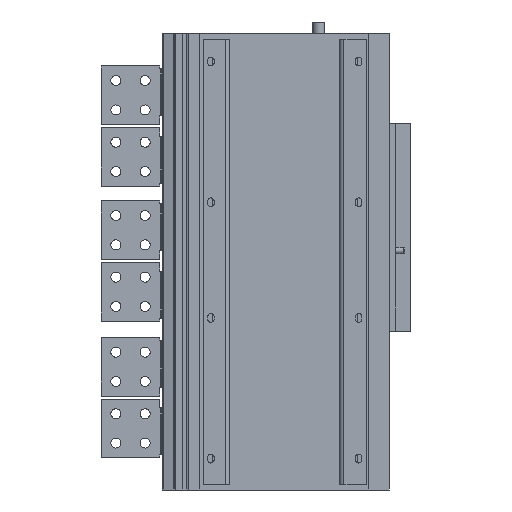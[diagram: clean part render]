
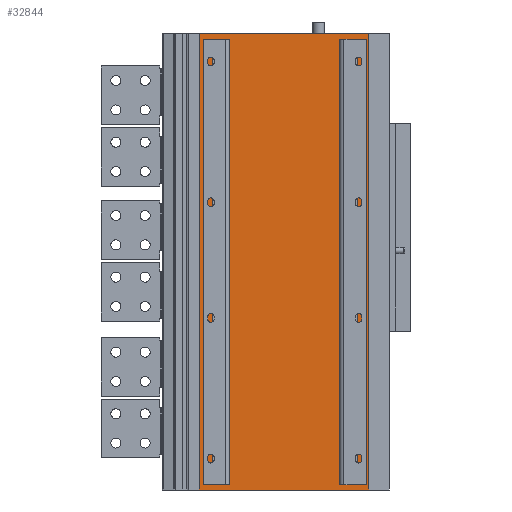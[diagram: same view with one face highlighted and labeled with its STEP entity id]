
A CAD part, front view. The second image highlights one B-rep face of the part: STEP entity #32844.
In plain terms, the highlighted planar face has unit normal (0, -1, 0).
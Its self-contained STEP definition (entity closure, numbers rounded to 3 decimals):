
#473 = EDGE_CURVE ( 'NONE', #24136, #32761, #35177, .T. ) ;
#561 = ORIENTED_EDGE ( 'NONE', *, *, #15667, .F. ) ;
#1376 = VERTEX_POINT ( 'NONE', #33275 ) ;
#3197 = CARTESIAN_POINT ( 'NONE',  ( 5152.975, 249.653, 760. ) ) ;
#3764 = VECTOR ( 'NONE', #11329, 1000. ) ;
#4236 = LINE ( 'NONE', #27053, #11854 ) ;
#4342 = CARTESIAN_POINT ( 'NONE',  ( 5133.475, 249.653, 0. ) ) ;
#4960 = CARTESIAN_POINT ( 'NONE',  ( 4908.475, 249.653, 0. ) ) ;
#5441 = VERTEX_POINT ( 'NONE', #4960 ) ;
#5640 = ORIENTED_EDGE ( 'NONE', *, *, #42657, .T. ) ;
#5912 = CARTESIAN_POINT ( 'NONE',  ( 4885.475, 249.653, 760. ) ) ;
#6238 = CARTESIAN_POINT ( 'NONE',  ( 4885.475, 249.653, 760. ) ) ;
#6730 = VERTEX_POINT ( 'NONE', #32833 ) ;
#7273 = ORIENTED_EDGE ( 'NONE', *, *, #43026, .T. ) ;
#7323 = EDGE_CURVE ( 'NONE', #6730, #10787, #41262, .T. ) ;
#7578 = ORIENTED_EDGE ( 'NONE', *, *, #37132, .F. ) ;
#8348 = EDGE_CURVE ( 'NONE', #21730, #38053, #42743, .T. ) ;
#10096 = ORIENTED_EDGE ( 'NONE', *, *, #18342, .F. ) ;
#10787 = VERTEX_POINT ( 'NONE', #33672 ) ;
#11066 = CARTESIAN_POINT ( 'NONE',  ( 5133.475, 249.653, 0. ) ) ;
#11329 = DIRECTION ( 'NONE',  ( 0., 0., -1. ) ) ;
#11430 = VERTEX_POINT ( 'NONE', #5912 ) ;
#11797 = DIRECTION ( 'NONE',  ( 1., 0., 0. ) ) ;
#11854 = VECTOR ( 'NONE', #23423, 1000. ) ;
#12084 = CARTESIAN_POINT ( 'NONE',  ( 5133.475, 249.653, 760. ) ) ;
#12551 = FACE_BOUND ( 'NONE', #40429, .T. ) ;
#12653 = DIRECTION ( 'NONE',  ( 0., 0., 1. ) ) ;
#12755 = VERTEX_POINT ( 'NONE', #29372 ) ;
#13028 = DIRECTION ( 'NONE',  ( 1., 0., 0. ) ) ;
#13861 = DIRECTION ( 'NONE',  ( 0., 0., -1. ) ) ;
#15468 = VECTOR ( 'NONE', #26645, 1000. ) ;
#15667 = EDGE_CURVE ( 'NONE', #21730, #24136, #43899, .T. ) ;
#15841 = CARTESIAN_POINT ( 'NONE',  ( 4863.475, 249.653, 769. ) ) ;
#16110 = DIRECTION ( 'NONE',  ( 1., 0., 0. ) ) ;
#16662 = LINE ( 'NONE', #33877, #36812 ) ;
#16665 = LINE ( 'NONE', #36961, #43312 ) ;
#17642 = DIRECTION ( 'NONE',  ( 0., 0., -1. ) ) ;
#18342 = EDGE_CURVE ( 'NONE', #10787, #41968, #16662, .T. ) ;
#19088 = VECTOR ( 'NONE', #28809, 1000. ) ;
#19514 = EDGE_CURVE ( 'NONE', #12755, #5441, #39401, .T. ) ;
#19721 = VERTEX_POINT ( 'NONE', #32081 ) ;
#19780 = ORIENTED_EDGE ( 'NONE', *, *, #7323, .F. ) ;
#21730 = VERTEX_POINT ( 'NONE', #15841 ) ;
#22018 = EDGE_LOOP ( 'NONE', ( #42206, #25370, #35423, #561 ) ) ;
#22065 = CARTESIAN_POINT ( 'NONE',  ( 5152.975, 249.653, 769. ) ) ;
#22312 = DIRECTION ( 'NONE',  ( 0., 0., -1. ) ) ;
#22347 = CARTESIAN_POINT ( 'NONE',  ( 4863.475, 249.653, 760. ) ) ;
#22516 = VECTOR ( 'NONE', #22312, 1000. ) ;
#22852 = PLANE ( 'NONE',  #44962 ) ;
#23423 = DIRECTION ( 'NONE',  ( 1., 0., 0. ) ) ;
#24136 = VERTEX_POINT ( 'NONE', #22065 ) ;
#24693 = LINE ( 'NONE', #12084, #15468 ) ;
#25300 = CARTESIAN_POINT ( 'NONE',  ( 5110.475, 249.653, 760. ) ) ;
#25370 = ORIENTED_EDGE ( 'NONE', *, *, #34690, .T. ) ;
#26645 = DIRECTION ( 'NONE',  ( 1., 0., 0. ) ) ;
#27053 = CARTESIAN_POINT ( 'NONE',  ( 4863.475, 249.653, -9. ) ) ;
#27210 = LINE ( 'NONE', #11066, #19088 ) ;
#27251 = EDGE_CURVE ( 'NONE', #11430, #12755, #16665, .T. ) ;
#28218 = LINE ( 'NONE', #6238, #33148 ) ;
#28809 = DIRECTION ( 'NONE',  ( 1., 0., 0. ) ) ;
#29372 = CARTESIAN_POINT ( 'NONE',  ( 4908.475, 249.653, 760. ) ) ;
#29638 = DIRECTION ( 'NONE',  ( 0., 0., -1. ) ) ;
#30645 = LINE ( 'NONE', #43106, #22516 ) ;
#31669 = CARTESIAN_POINT ( 'NONE',  ( 5152.975, 249.653, -9. ) ) ;
#32081 = CARTESIAN_POINT ( 'NONE',  ( 5133.475, 249.653, 760. ) ) ;
#32761 = VERTEX_POINT ( 'NONE', #31669 ) ;
#32833 = CARTESIAN_POINT ( 'NONE',  ( 5110.475, 249.653, 760. ) ) ;
#32844 = ADVANCED_FACE ( 'NONE', ( #12551, #41333, #40789 ), #22852, .F. ) ;
#32906 = ORIENTED_EDGE ( 'NONE', *, *, #27251, .T. ) ;
#33148 = VECTOR ( 'NONE', #33959, 1000. ) ;
#33275 = CARTESIAN_POINT ( 'NONE',  ( 4885.475, 249.653, 0. ) ) ;
#33401 = EDGE_LOOP ( 'NONE', ( #10096, #19780, #5640, #7273 ) ) ;
#33495 = CARTESIAN_POINT ( 'NONE',  ( 0., 249.653, 760. ) ) ;
#33552 = VECTOR ( 'NONE', #29638, 1000. ) ;
#33672 = CARTESIAN_POINT ( 'NONE',  ( 5110.475, 249.653, 0. ) ) ;
#33877 = CARTESIAN_POINT ( 'NONE',  ( 5133.475, 249.653, 0. ) ) ;
#33959 = DIRECTION ( 'NONE',  ( 0., 0., -1. ) ) ;
#34081 = VECTOR ( 'NONE', #13861, 1000. ) ;
#34690 = EDGE_CURVE ( 'NONE', #38053, #32761, #4236, .T. ) ;
#34705 = VECTOR ( 'NONE', #11797, 1000. ) ;
#35177 = LINE ( 'NONE', #3197, #34081 ) ;
#35423 = ORIENTED_EDGE ( 'NONE', *, *, #473, .F. ) ;
#36546 = DIRECTION ( 'NONE',  ( 0., 1., 0. ) ) ;
#36812 = VECTOR ( 'NONE', #13028, 1000. ) ;
#36961 = CARTESIAN_POINT ( 'NONE',  ( 5133.475, 249.653, 760. ) ) ;
#37132 = EDGE_CURVE ( 'NONE', #1376, #5441, #27210, .T. ) ;
#38053 = VERTEX_POINT ( 'NONE', #43907 ) ;
#38925 = CARTESIAN_POINT ( 'NONE',  ( 4908.475, 249.653, 760. ) ) ;
#39067 = EDGE_CURVE ( 'NONE', #11430, #1376, #28218, .T. ) ;
#39401 = LINE ( 'NONE', #38925, #41563 ) ;
#40429 = EDGE_LOOP ( 'NONE', ( #7578, #43068, #32906, #44257 ) ) ;
#40789 = FACE_OUTER_BOUND ( 'NONE', #22018, .T. ) ;
#41262 = LINE ( 'NONE', #25300, #3764 ) ;
#41333 = FACE_BOUND ( 'NONE', #33401, .T. ) ;
#41563 = VECTOR ( 'NONE', #17642, 1000. ) ;
#41968 = VERTEX_POINT ( 'NONE', #4342 ) ;
#42206 = ORIENTED_EDGE ( 'NONE', *, *, #8348, .T. ) ;
#42657 = EDGE_CURVE ( 'NONE', #6730, #19721, #24693, .T. ) ;
#42743 = LINE ( 'NONE', #22347, #33552 ) ;
#43026 = EDGE_CURVE ( 'NONE', #19721, #41968, #30645, .T. ) ;
#43068 = ORIENTED_EDGE ( 'NONE', *, *, #39067, .F. ) ;
#43106 = CARTESIAN_POINT ( 'NONE',  ( 5133.475, 249.653, 760. ) ) ;
#43312 = VECTOR ( 'NONE', #16110, 1000. ) ;
#43681 = CARTESIAN_POINT ( 'NONE',  ( 4863.475, 249.653, 769. ) ) ;
#43899 = LINE ( 'NONE', #43681, #34705 ) ;
#43907 = CARTESIAN_POINT ( 'NONE',  ( 4863.475, 249.653, -9. ) ) ;
#44257 = ORIENTED_EDGE ( 'NONE', *, *, #19514, .T. ) ;
#44962 = AXIS2_PLACEMENT_3D ( 'NONE', #33495, #36546, #12653 ) ;
